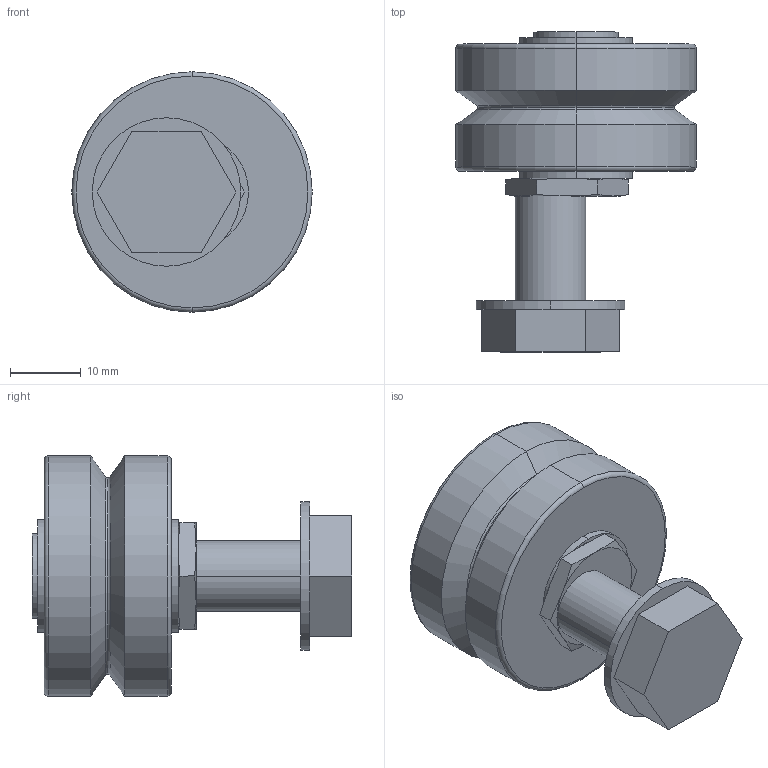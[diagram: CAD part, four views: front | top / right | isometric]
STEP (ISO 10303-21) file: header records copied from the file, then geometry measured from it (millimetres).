
FILE_DESCRIPTION(('STEP AP203'),'1');
FILE_NAME('rlfj_34_de_ns.stp','2021-08-30T07:30:33',('TraceParts'),('TraceParts S.A.'),'Spatial InterOp 3D',' ',' ');
FILE_SCHEMA(('CONFIG_CONTROL_DESIGN'));
Length unit declared in the file: millimetre
Products named in the file (1): 1
Bounding box: 34 x 45.25 x 34 mm (x, y, z)
Volume: 19534.6 mm3; surface area: 9139.8 mm2
Topology: 3 solids, 4 shells, 72 faces, 154 edges, 93 vertices
Faces by surface type: plane 30, cone 18, cylinder 16, torus 8
Entity records: 2002 total; most frequent: CARTESIAN_POINT 392, DIRECTION 342, ORIENTED_EDGE 304, EDGE_CURVE 152, AXIS2_PLACEMENT_3D 139, VERTEX_POINT 93, EDGE_LOOP 81, ADVANCED_FACE 72
